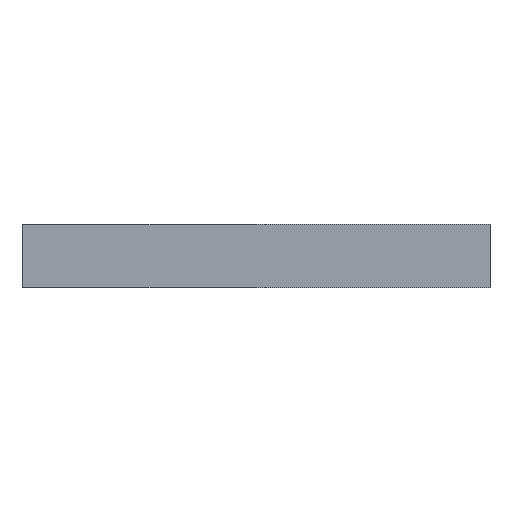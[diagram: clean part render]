
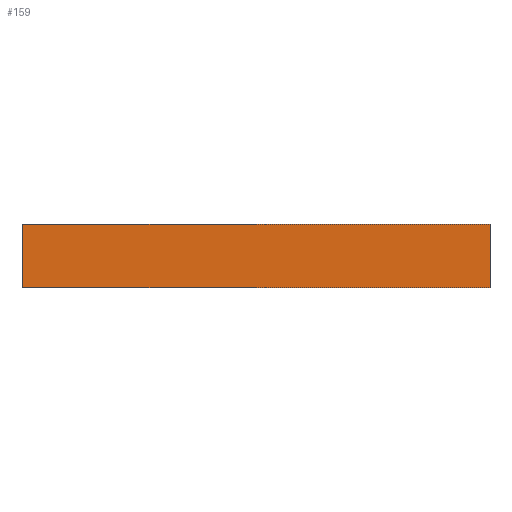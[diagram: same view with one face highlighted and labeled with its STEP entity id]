
A CAD part, front view. The second image highlights one B-rep face of the part: STEP entity #159.
In plain terms, the highlighted planar face has unit normal (0, -1, 0).
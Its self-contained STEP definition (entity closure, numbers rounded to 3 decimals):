
#43 = EDGE_CURVE('',#44,#46,#48,.T.);
#44 = VERTEX_POINT('',#45);
#45 = CARTESIAN_POINT('',(-14.8,-63.4,-6.1));
#46 = VERTEX_POINT('',#47);
#47 = CARTESIAN_POINT('',(-14.8,-63.4,-2.1));
#48 = SURFACE_CURVE('',#49,(#53,#65),.PCURVE_S1.);
#49 = LINE('',#50,#51);
#50 = CARTESIAN_POINT('',(-14.8,-63.4,-6.1));
#51 = VECTOR('',#52,1.);
#52 = DIRECTION('',(0.,0.,1.));
#53 = PCURVE('',#54,#59);
#54 = PLANE('',#55);
#55 = AXIS2_PLACEMENT_3D('',#56,#57,#58);
#56 = CARTESIAN_POINT('',(-14.8,-63.4,-6.1));
#57 = DIRECTION('',(1.,0.,-0.));
#58 = DIRECTION('',(0.,0.,1.));
#59 = DEFINITIONAL_REPRESENTATION('',(#60),#64);
#60 = LINE('',#61,#62);
#61 = CARTESIAN_POINT('',(0.,0.));
#62 = VECTOR('',#63,1.);
#63 = DIRECTION('',(1.,0.));
#64 = ( GEOMETRIC_REPRESENTATION_CONTEXT(2) 
PARAMETRIC_REPRESENTATION_CONTEXT() REPRESENTATION_CONTEXT('2D SPACE',''
  ) );
#65 = PCURVE('',#66,#71);
#66 = PLANE('',#67);
#67 = AXIS2_PLACEMENT_3D('',#68,#69,#70);
#68 = CARTESIAN_POINT('',(-14.8,-63.4,-6.1));
#69 = DIRECTION('',(-0.,1.,0.));
#70 = DIRECTION('',(0.,0.,1.));
#71 = DEFINITIONAL_REPRESENTATION('',(#72),#76);
#72 = LINE('',#73,#74);
#73 = CARTESIAN_POINT('',(0.,0.));
#74 = VECTOR('',#75,1.);
#75 = DIRECTION('',(1.,0.));
#76 = ( GEOMETRIC_REPRESENTATION_CONTEXT(2) 
PARAMETRIC_REPRESENTATION_CONTEXT() REPRESENTATION_CONTEXT('2D SPACE',''
  ) );
#94 = PLANE('',#95);
#95 = AXIS2_PLACEMENT_3D('',#96,#97,#98);
#96 = CARTESIAN_POINT('',(-14.8,-63.4,-6.1));
#97 = DIRECTION('',(0.,0.,1.));
#98 = DIRECTION('',(1.,0.,-0.));
#148 = PLANE('',#149);
#149 = AXIS2_PLACEMENT_3D('',#150,#151,#152);
#150 = CARTESIAN_POINT('',(-14.8,-63.4,-2.1));
#151 = DIRECTION('',(0.,0.,1.));
#152 = DIRECTION('',(1.,0.,-0.));
#159 = ADVANCED_FACE('',(#160),#66,.F.);
#160 = FACE_BOUND('',#161,.F.);
#161 = EDGE_LOOP('',(#162,#185,#186,#209));
#162 = ORIENTED_EDGE('',*,*,#163,.F.);
#163 = EDGE_CURVE('',#44,#164,#166,.T.);
#164 = VERTEX_POINT('',#165);
#165 = CARTESIAN_POINT('',(14.8,-63.4,-6.1));
#166 = SURFACE_CURVE('',#167,(#171,#178),.PCURVE_S1.);
#167 = LINE('',#168,#169);
#168 = CARTESIAN_POINT('',(-14.8,-63.4,-6.1));
#169 = VECTOR('',#170,1.);
#170 = DIRECTION('',(1.,0.,-0.));
#171 = PCURVE('',#66,#172);
#172 = DEFINITIONAL_REPRESENTATION('',(#173),#177);
#173 = LINE('',#174,#175);
#174 = CARTESIAN_POINT('',(0.,0.));
#175 = VECTOR('',#176,1.);
#176 = DIRECTION('',(0.,1.));
#177 = ( GEOMETRIC_REPRESENTATION_CONTEXT(2) 
PARAMETRIC_REPRESENTATION_CONTEXT() REPRESENTATION_CONTEXT('2D SPACE',''
  ) );
#178 = PCURVE('',#94,#179);
#179 = DEFINITIONAL_REPRESENTATION('',(#180),#184);
#180 = LINE('',#181,#182);
#181 = CARTESIAN_POINT('',(0.,0.));
#182 = VECTOR('',#183,1.);
#183 = DIRECTION('',(1.,0.));
#184 = ( GEOMETRIC_REPRESENTATION_CONTEXT(2) 
PARAMETRIC_REPRESENTATION_CONTEXT() REPRESENTATION_CONTEXT('2D SPACE',''
  ) );
#185 = ORIENTED_EDGE('',*,*,#43,.T.);
#186 = ORIENTED_EDGE('',*,*,#187,.T.);
#187 = EDGE_CURVE('',#46,#188,#190,.T.);
#188 = VERTEX_POINT('',#189);
#189 = CARTESIAN_POINT('',(14.8,-63.4,-2.1));
#190 = SURFACE_CURVE('',#191,(#195,#202),.PCURVE_S1.);
#191 = LINE('',#192,#193);
#192 = CARTESIAN_POINT('',(-14.8,-63.4,-2.1));
#193 = VECTOR('',#194,1.);
#194 = DIRECTION('',(1.,0.,-0.));
#195 = PCURVE('',#66,#196);
#196 = DEFINITIONAL_REPRESENTATION('',(#197),#201);
#197 = LINE('',#198,#199);
#198 = CARTESIAN_POINT('',(4.,0.));
#199 = VECTOR('',#200,1.);
#200 = DIRECTION('',(0.,1.));
#201 = ( GEOMETRIC_REPRESENTATION_CONTEXT(2) 
PARAMETRIC_REPRESENTATION_CONTEXT() REPRESENTATION_CONTEXT('2D SPACE',''
  ) );
#202 = PCURVE('',#148,#203);
#203 = DEFINITIONAL_REPRESENTATION('',(#204),#208);
#204 = LINE('',#205,#206);
#205 = CARTESIAN_POINT('',(0.,0.));
#206 = VECTOR('',#207,1.);
#207 = DIRECTION('',(1.,0.));
#208 = ( GEOMETRIC_REPRESENTATION_CONTEXT(2) 
PARAMETRIC_REPRESENTATION_CONTEXT() REPRESENTATION_CONTEXT('2D SPACE',''
  ) );
#209 = ORIENTED_EDGE('',*,*,#210,.F.);
#210 = EDGE_CURVE('',#164,#188,#211,.T.);
#211 = SURFACE_CURVE('',#212,(#216,#223),.PCURVE_S1.);
#212 = LINE('',#213,#214);
#213 = CARTESIAN_POINT('',(14.8,-63.4,-6.1));
#214 = VECTOR('',#215,1.);
#215 = DIRECTION('',(0.,0.,1.));
#216 = PCURVE('',#66,#217);
#217 = DEFINITIONAL_REPRESENTATION('',(#218),#222);
#218 = LINE('',#219,#220);
#219 = CARTESIAN_POINT('',(0.,29.6));
#220 = VECTOR('',#221,1.);
#221 = DIRECTION('',(1.,0.));
#222 = ( GEOMETRIC_REPRESENTATION_CONTEXT(2) 
PARAMETRIC_REPRESENTATION_CONTEXT() REPRESENTATION_CONTEXT('2D SPACE',''
  ) );
#223 = PCURVE('',#224,#229);
#224 = PLANE('',#225);
#225 = AXIS2_PLACEMENT_3D('',#226,#227,#228);
#226 = CARTESIAN_POINT('',(14.8,-63.4,-6.1));
#227 = DIRECTION('',(1.,0.,-0.));
#228 = DIRECTION('',(0.,0.,1.));
#229 = DEFINITIONAL_REPRESENTATION('',(#230),#234);
#230 = LINE('',#231,#232);
#231 = CARTESIAN_POINT('',(0.,0.));
#232 = VECTOR('',#233,1.);
#233 = DIRECTION('',(1.,0.));
#234 = ( GEOMETRIC_REPRESENTATION_CONTEXT(2) 
PARAMETRIC_REPRESENTATION_CONTEXT() REPRESENTATION_CONTEXT('2D SPACE',''
  ) );
